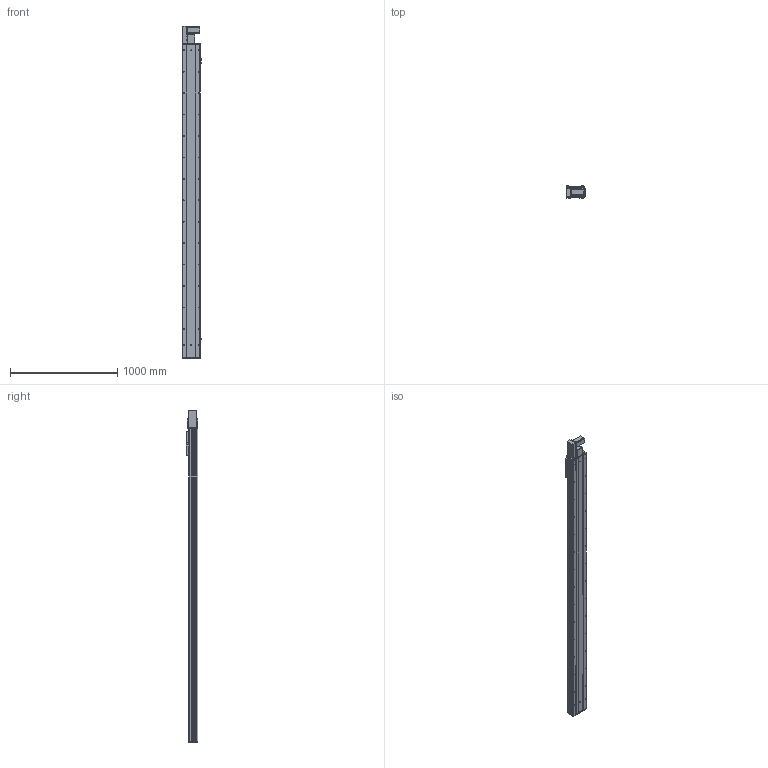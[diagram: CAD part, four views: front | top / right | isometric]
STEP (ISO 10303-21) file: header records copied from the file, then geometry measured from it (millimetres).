
FILE_DESCRIPTION (( 'STEP AP203' ), '1' );
FILE_NAME ('Y170CB-D105-S2600-BL-P400W.STEP', '2020-02-20T01:49:50', ( '微软用户' ), ( '微软中国' ), 'SwSTEP 2.0', 'SolidWorks 2017', '' );
FILE_SCHEMA (( 'CONFIG_CONTROL_DESIGN' ));
Length unit declared in the file: millimetre
Products named in the file (18): 70CB-掛极-; Y100-135俋离換覜ん--; --70CB --喘謫眊楊擘啣-; Y170CB-陔俋离換覜結え---; 70B喘謫眊----; 70CB-耜裔啣-; B-源倛裔啣; Y1埴倛裔; 70C--詩湍揤踡え-; 17B-耜蚾蟀諉啣----; Y170CB-D105-S2600-BL-P400W; 70CB--耜裔; 0B-萇儂楊擘啣; 70C-雄赽釱-奻-; san松下电机400不带刹车----; 0C--雄赽釱俋欶-170; Y70俋欶BR----; 70CB-詩湍--
Assembly tree (21 placements, depth 2):
  Y170CB-D105-S2600-BL-P400W
    B-源倛裔啣
    17B-耜蚾蟀諉啣----
    0B-萇儂楊擘啣
    san松下电机400不带刹车----
    Y70俋欶BR----
    70CB-掛极-
    --70CB --喘謫眊楊擘啣-
    70CB-耜裔啣-  x2
    70C--詩湍揤踡え-  x2
    70CB--耜裔
    70C-雄赽釱-奻-
    0C--雄赽釱俋欶-170
    70CB-詩湍--
    Y100-135俋离換覜ん--  x3
    Y170CB-陔俋离換覜結え---
    70B喘謫眊----
    Y1埴倛裔
Bounding box: 183.5 x 107 x 3097 mm (x, y, z)
Volume: 12837380.4 mm3; surface area: 4634967.3 mm2
Topology: 21 solids, 21 shells, 1071 faces, 2885 edges, 1914 vertices
Faces by surface type: cylinder 583, plane 464, cone 24
Entity records: 34364 total; most frequent: CARTESIAN_POINT 6336, DIRECTION 5590, ORIENTED_EDGE 5252, EDGE_CURVE 2626, AXIS2_PLACEMENT_3D 2064, VERTEX_POINT 1744, LINE 1462, VECTOR 1462
